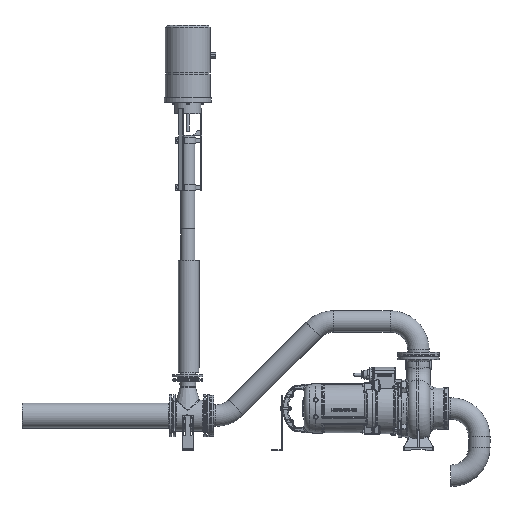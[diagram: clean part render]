
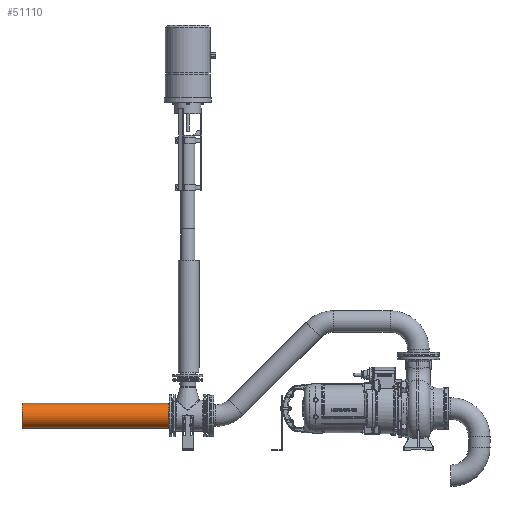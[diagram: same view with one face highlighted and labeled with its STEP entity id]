
A CAD part, left-side view. The second image highlights one B-rep face of the part: STEP entity #51110.
In plain terms, the highlighted cylindrical face has radius 66.5 mm (diameter 133 mm), a full revolution.
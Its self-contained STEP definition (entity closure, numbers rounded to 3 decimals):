
#7689=FACE_OUTER_BOUND('',#11039,.T.);
#11039=EDGE_LOOP('',(#45013,#45014,#45015,#45016,#45017));
#14973=LINE('',#128823,#17365);
#17365=VECTOR('',#69919,66.5);
#20439=CIRCLE('',#57401,66.5);
#20440=CIRCLE('',#57402,66.5);
#20441=CIRCLE('',#57404,66.5);
#24901=VERTEX_POINT('',#128815);
#24902=VERTEX_POINT('',#128817);
#24903=VERTEX_POINT('',#128821);
#31714=EDGE_CURVE('',#24901,#24902,#20439,.T.);
#31715=EDGE_CURVE('',#24902,#24901,#20440,.T.);
#31716=EDGE_CURVE('',#24903,#24903,#20441,.T.);
#31717=EDGE_CURVE('',#24903,#24902,#14973,.T.);
#45013=ORIENTED_EDGE('',*,*,#31716,.T.);
#45014=ORIENTED_EDGE('',*,*,#31717,.T.);
#45015=ORIENTED_EDGE('',*,*,#31714,.F.);
#45016=ORIENTED_EDGE('',*,*,#31715,.F.);
#45017=ORIENTED_EDGE('',*,*,#31717,.F.);
#48450=CYLINDRICAL_SURFACE('',#57403,66.5);
#51110=ADVANCED_FACE('',(#7689),#48450,.T.);
#57401=AXIS2_PLACEMENT_3D('',#128818,#69911,#69912);
#57402=AXIS2_PLACEMENT_3D('',#128819,#69913,#69914);
#57403=AXIS2_PLACEMENT_3D('',#128820,#69915,#69916);
#57404=AXIS2_PLACEMENT_3D('',#128822,#69917,#69918);
#69911=DIRECTION('center_axis',(0.,0.,-1.));
#69912=DIRECTION('ref_axis',(-1.,0.,0.));
#69913=DIRECTION('center_axis',(0.,0.,-1.));
#69914=DIRECTION('ref_axis',(-1.,0.,0.));
#69915=DIRECTION('center_axis',(0.,0.,1.));
#69916=DIRECTION('ref_axis',(1.,0.,0.));
#69917=DIRECTION('center_axis',(0.,0.,-1.));
#69918=DIRECTION('ref_axis',(1.,0.,0.));
#69919=DIRECTION('',(0.,0.,-1.));
#128815=CARTESIAN_POINT('',(66.5,0.,15.));
#128817=CARTESIAN_POINT('',(-66.5,0.,15.));
#128818=CARTESIAN_POINT('Origin',(0.,0.,15.));
#128819=CARTESIAN_POINT('Origin',(0.,0.,15.));
#128820=CARTESIAN_POINT('Origin',(0.,0.,0.));
#128821=CARTESIAN_POINT('',(-66.5,0.,800.));
#128822=CARTESIAN_POINT('Origin',(0.,0.,800.));
#128823=CARTESIAN_POINT('',(-66.5,0.,0.));
